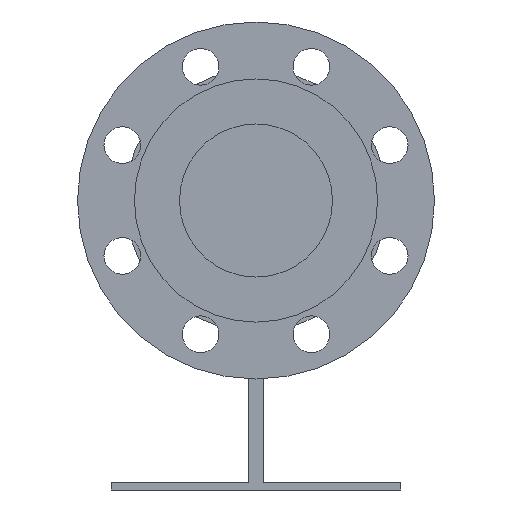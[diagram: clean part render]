
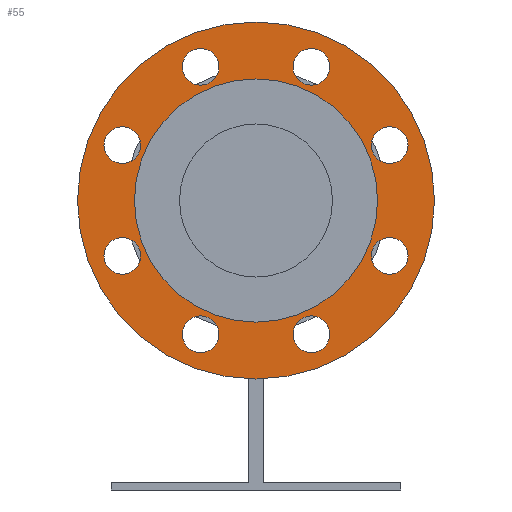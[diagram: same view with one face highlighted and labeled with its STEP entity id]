
A CAD part, left-side view. The second image highlights one B-rep face of the part: STEP entity #55.
In plain terms, the highlighted planar face has unit normal (-1, 0, 0).
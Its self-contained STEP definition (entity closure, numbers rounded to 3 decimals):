
#55=ADVANCED_FACE('',(#298,#299,#300,#301,#302,#303,#304,#305,#306,#307),#297,.T.);
#297=PLANE('',#1206);
#298=FACE_OUTER_BOUND('',#1207,.T.);
#299=FACE_BOUND('',#1208,.T.);
#300=FACE_BOUND('',#1209,.T.);
#301=FACE_BOUND('',#1210,.T.);
#302=FACE_BOUND('',#1211,.T.);
#303=FACE_BOUND('',#1212,.T.);
#304=FACE_BOUND('',#1213,.T.);
#305=FACE_BOUND('',#1214,.T.);
#306=FACE_BOUND('',#1215,.T.);
#307=FACE_BOUND('',#1216,.T.);
#1203=CARTESIAN_POINT('',(-389.,-170.215,-195.));
#1204=DIRECTION('',(-1.,0.,0.));
#1205=DIRECTION('',(0.,0.,1.));
#1206=AXIS2_PLACEMENT_3D('',#1203,#1204,#1205);
#1207=EDGE_LOOP('',(#1725,#1726));
#1208=EDGE_LOOP('',(#1727,#1728));
#1209=EDGE_LOOP('',(#1729,#1730));
#1210=EDGE_LOOP('',(#1731,#1732));
#1211=EDGE_LOOP('',(#1733,#1734));
#1212=EDGE_LOOP('',(#1735,#1736));
#1213=EDGE_LOOP('',(#1737,#1738));
#1214=EDGE_LOOP('',(#1739,#1740));
#1215=EDGE_LOOP('',(#1741,#1742));
#1216=EDGE_LOOP('',(#1743,#1744));
#1725=ORIENTED_EDGE('',*,*,#2195,.T.);
#1726=ORIENTED_EDGE('',*,*,#2196,.T.);
#1727=ORIENTED_EDGE('',*,*,#2197,.F.);
#1728=ORIENTED_EDGE('',*,*,#2198,.F.);
#1729=ORIENTED_EDGE('',*,*,#2199,.F.);
#1730=ORIENTED_EDGE('',*,*,#2200,.F.);
#1731=ORIENTED_EDGE('',*,*,#2201,.F.);
#1732=ORIENTED_EDGE('',*,*,#2202,.F.);
#1733=ORIENTED_EDGE('',*,*,#2203,.F.);
#1734=ORIENTED_EDGE('',*,*,#2204,.F.);
#1735=ORIENTED_EDGE('',*,*,#2205,.F.);
#1736=ORIENTED_EDGE('',*,*,#2206,.F.);
#1737=ORIENTED_EDGE('',*,*,#2207,.F.);
#1738=ORIENTED_EDGE('',*,*,#2208,.F.);
#1739=ORIENTED_EDGE('',*,*,#2209,.F.);
#1740=ORIENTED_EDGE('',*,*,#2210,.F.);
#1741=ORIENTED_EDGE('',*,*,#2211,.F.);
#1742=ORIENTED_EDGE('',*,*,#2212,.F.);
#1743=ORIENTED_EDGE('',*,*,#2213,.F.);
#1744=ORIENTED_EDGE('',*,*,#2214,.F.);
#2195=EDGE_CURVE('',#2913,#2914,#2915,.T.);
#2196=EDGE_CURVE('',#2914,#2913,#2921,.T.);
#2197=EDGE_CURVE('',#2927,#2928,#2929,.T.);
#2198=EDGE_CURVE('',#2928,#2927,#2935,.T.);
#2199=EDGE_CURVE('',#2941,#2942,#2943,.T.);
#2200=EDGE_CURVE('',#2942,#2941,#2949,.T.);
#2201=EDGE_CURVE('',#2955,#2956,#2957,.T.);
#2202=EDGE_CURVE('',#2956,#2955,#2963,.T.);
#2203=EDGE_CURVE('',#2969,#2970,#2971,.T.);
#2204=EDGE_CURVE('',#2970,#2969,#2977,.T.);
#2205=EDGE_CURVE('',#2983,#2984,#2985,.T.);
#2206=EDGE_CURVE('',#2984,#2983,#2991,.T.);
#2207=EDGE_CURVE('',#2997,#2998,#2999,.T.);
#2208=EDGE_CURVE('',#2998,#2997,#3005,.T.);
#2209=EDGE_CURVE('',#3011,#3012,#3013,.T.);
#2210=EDGE_CURVE('',#3012,#3011,#3019,.T.);
#2211=EDGE_CURVE('',#3025,#3026,#3027,.T.);
#2212=EDGE_CURVE('',#3026,#3025,#3033,.T.);
#2213=EDGE_CURVE('',#3039,#3040,#3041,.T.);
#2214=EDGE_CURVE('',#3040,#3039,#3047,.T.);
#2913=VERTEX_POINT('',#4321);
#2914=VERTEX_POINT('',#4322);
#2915=CIRCLE('',#4326,92.5);
#2921=CIRCLE('',#4330,92.5);
#2927=VERTEX_POINT('',#4331);
#2928=VERTEX_POINT('',#4332);
#2929=CIRCLE('',#4336,9.5);
#2935=CIRCLE('',#4340,9.5);
#2941=VERTEX_POINT('',#4341);
#2942=VERTEX_POINT('',#4342);
#2943=CIRCLE('',#4346,9.5);
#2949=CIRCLE('',#4350,9.5);
#2955=VERTEX_POINT('',#4351);
#2956=VERTEX_POINT('',#4352);
#2957=CIRCLE('',#4356,9.5);
#2963=CIRCLE('',#4360,9.5);
#2969=VERTEX_POINT('',#4361);
#2970=VERTEX_POINT('',#4362);
#2971=CIRCLE('',#4366,9.5);
#2977=CIRCLE('',#4370,9.5);
#2983=VERTEX_POINT('',#4371);
#2984=VERTEX_POINT('',#4372);
#2985=CIRCLE('',#4376,9.5);
#2991=CIRCLE('',#4380,9.5);
#2997=VERTEX_POINT('',#4381);
#2998=VERTEX_POINT('',#4382);
#2999=CIRCLE('',#4386,9.5);
#3005=CIRCLE('',#4390,9.5);
#3011=VERTEX_POINT('',#4391);
#3012=VERTEX_POINT('',#4392);
#3013=CIRCLE('',#4396,9.5);
#3019=CIRCLE('',#4400,9.5);
#3025=VERTEX_POINT('',#4401);
#3026=VERTEX_POINT('',#4402);
#3027=CIRCLE('',#4406,63.);
#3033=CIRCLE('',#4410,63.);
#3039=VERTEX_POINT('',#4411);
#3040=VERTEX_POINT('',#4412);
#3041=CIRCLE('',#4416,9.5);
#3047=CIRCLE('',#4420,9.5);
#4321=CARTESIAN_POINT('',(-389.,0.,92.5));
#4322=CARTESIAN_POINT('',(-389.,0.,-92.5));
#4323=CARTESIAN_POINT('',(-389.,0.,0.));
#4324=DIRECTION('',(-1.,0.,0.));
#4325=DIRECTION('',(0.,0.,1.));
#4326=AXIS2_PLACEMENT_3D('',#4323,#4324,#4325);
#4327=CARTESIAN_POINT('',(-389.,0.,0.));
#4328=DIRECTION('',(-1.,0.,0.));
#4329=DIRECTION('',(0.,0.,1.));
#4330=AXIS2_PLACEMENT_3D('',#4327,#4328,#4329);
#4331=CARTESIAN_POINT('',(-389.,69.291,-19.201));
#4332=CARTESIAN_POINT('',(-389.,69.291,-38.201));
#4333=CARTESIAN_POINT('',(-389.,69.291,-28.701));
#4334=DIRECTION('',(-1.,0.,0.));
#4335=DIRECTION('',(0.,0.,-1.));
#4336=AXIS2_PLACEMENT_3D('',#4333,#4334,#4335);
#4337=CARTESIAN_POINT('',(-389.,69.291,-28.701));
#4338=DIRECTION('',(-1.,0.,0.));
#4339=DIRECTION('',(0.,0.,-1.));
#4340=AXIS2_PLACEMENT_3D('',#4337,#4338,#4339);
#4341=CARTESIAN_POINT('',(-389.,28.701,-59.791));
#4342=CARTESIAN_POINT('',(-389.,28.701,-78.791));
#4343=CARTESIAN_POINT('',(-389.,28.701,-69.291));
#4344=DIRECTION('',(-1.,0.,0.));
#4345=DIRECTION('',(0.,0.,-1.));
#4346=AXIS2_PLACEMENT_3D('',#4343,#4344,#4345);
#4347=CARTESIAN_POINT('',(-389.,28.701,-69.291));
#4348=DIRECTION('',(-1.,0.,0.));
#4349=DIRECTION('',(0.,0.,-1.));
#4350=AXIS2_PLACEMENT_3D('',#4347,#4348,#4349);
#4351=CARTESIAN_POINT('',(-389.,-28.701,-59.791));
#4352=CARTESIAN_POINT('',(-389.,-28.701,-78.791));
#4353=CARTESIAN_POINT('',(-389.,-28.701,-69.291));
#4354=DIRECTION('',(-1.,0.,0.));
#4355=DIRECTION('',(0.,0.,-1.));
#4356=AXIS2_PLACEMENT_3D('',#4353,#4354,#4355);
#4357=CARTESIAN_POINT('',(-389.,-28.701,-69.291));
#4358=DIRECTION('',(-1.,0.,0.));
#4359=DIRECTION('',(0.,0.,-1.));
#4360=AXIS2_PLACEMENT_3D('',#4357,#4358,#4359);
#4361=CARTESIAN_POINT('',(-389.,-69.291,-19.201));
#4362=CARTESIAN_POINT('',(-389.,-69.291,-38.201));
#4363=CARTESIAN_POINT('',(-389.,-69.291,-28.701));
#4364=DIRECTION('',(-1.,0.,0.));
#4365=DIRECTION('',(0.,0.,-1.));
#4366=AXIS2_PLACEMENT_3D('',#4363,#4364,#4365);
#4367=CARTESIAN_POINT('',(-389.,-69.291,-28.701));
#4368=DIRECTION('',(-1.,0.,0.));
#4369=DIRECTION('',(0.,0.,-1.));
#4370=AXIS2_PLACEMENT_3D('',#4367,#4368,#4369);
#4371=CARTESIAN_POINT('',(-389.,-69.291,38.201));
#4372=CARTESIAN_POINT('',(-389.,-69.291,19.201));
#4373=CARTESIAN_POINT('',(-389.,-69.291,28.701));
#4374=DIRECTION('',(-1.,0.,0.));
#4375=DIRECTION('',(0.,0.,-1.));
#4376=AXIS2_PLACEMENT_3D('',#4373,#4374,#4375);
#4377=CARTESIAN_POINT('',(-389.,-69.291,28.701));
#4378=DIRECTION('',(-1.,0.,0.));
#4379=DIRECTION('',(0.,0.,-1.));
#4380=AXIS2_PLACEMENT_3D('',#4377,#4378,#4379);
#4381=CARTESIAN_POINT('',(-389.,-28.701,78.791));
#4382=CARTESIAN_POINT('',(-389.,-28.701,59.791));
#4383=CARTESIAN_POINT('',(-389.,-28.701,69.291));
#4384=DIRECTION('',(-1.,0.,0.));
#4385=DIRECTION('',(0.,0.,-1.));
#4386=AXIS2_PLACEMENT_3D('',#4383,#4384,#4385);
#4387=CARTESIAN_POINT('',(-389.,-28.701,69.291));
#4388=DIRECTION('',(-1.,0.,0.));
#4389=DIRECTION('',(0.,0.,-1.));
#4390=AXIS2_PLACEMENT_3D('',#4387,#4388,#4389);
#4391=CARTESIAN_POINT('',(-389.,28.701,78.791));
#4392=CARTESIAN_POINT('',(-389.,28.701,59.791));
#4393=CARTESIAN_POINT('',(-389.,28.701,69.291));
#4394=DIRECTION('',(-1.,0.,0.));
#4395=DIRECTION('',(0.,0.,-1.));
#4396=AXIS2_PLACEMENT_3D('',#4393,#4394,#4395);
#4397=CARTESIAN_POINT('',(-389.,28.701,69.291));
#4398=DIRECTION('',(-1.,0.,0.));
#4399=DIRECTION('',(0.,0.,-1.));
#4400=AXIS2_PLACEMENT_3D('',#4397,#4398,#4399);
#4401=CARTESIAN_POINT('',(-389.,0.,-63.));
#4402=CARTESIAN_POINT('',(-389.,0.,63.));
#4403=CARTESIAN_POINT('',(-389.,0.,0.));
#4404=DIRECTION('',(-1.,0.,0.));
#4405=DIRECTION('',(0.,0.,1.));
#4406=AXIS2_PLACEMENT_3D('',#4403,#4404,#4405);
#4407=CARTESIAN_POINT('',(-389.,0.,0.));
#4408=DIRECTION('',(-1.,0.,0.));
#4409=DIRECTION('',(0.,0.,1.));
#4410=AXIS2_PLACEMENT_3D('',#4407,#4408,#4409);
#4411=CARTESIAN_POINT('',(-389.,69.291,38.201));
#4412=CARTESIAN_POINT('',(-389.,69.291,19.201));
#4413=CARTESIAN_POINT('',(-389.,69.291,28.701));
#4414=DIRECTION('',(-1.,0.,0.));
#4415=DIRECTION('',(0.,0.,-1.));
#4416=AXIS2_PLACEMENT_3D('',#4413,#4414,#4415);
#4417=CARTESIAN_POINT('',(-389.,69.291,28.701));
#4418=DIRECTION('',(-1.,0.,0.));
#4419=DIRECTION('',(0.,0.,-1.));
#4420=AXIS2_PLACEMENT_3D('',#4417,#4418,#4419);
